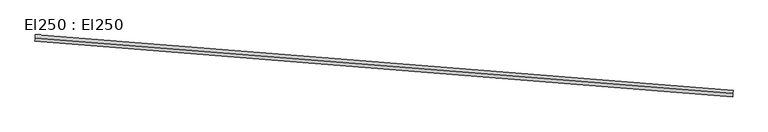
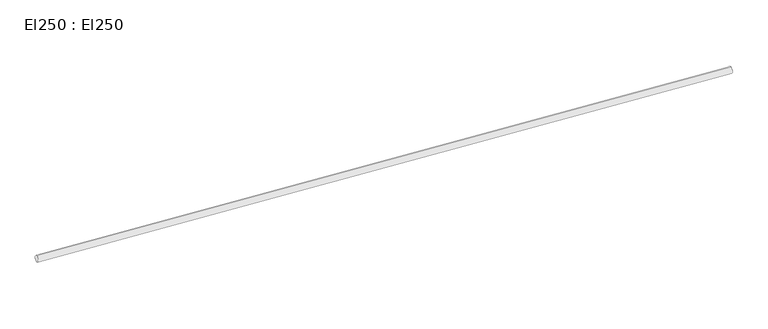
"""IFC4 building model written with IfcOpenShell, lengths in millimetres: cable carrier segment geometry, El250 : El250."""

from ifc_helpers import new_model, si_unit, point, frame, frame_2d, origin, place, context, project, spatial, circle_curve, trimmed, segment, composite_curve, outline, extrude, source, transform, mapped, element, save


def el250_el250_3d41ef78(model_context):
    return source(origin(), model_context, "Body", "SweptSolid", [
        extrude(outline(composite_curve([segment(trimmed(circle_curve(frame_2d((0.0, -9.5)), 9.5), [point((0.0, -19.0))], [point((0.0, 0.0))], False, "CARTESIAN"), True, "CONTINUOUS"), segment(trimmed(circle_curve(frame_2d((0.0, -9.5)), 9.5), [point((0.0, 0.0))], [point((0.0, -19.0))], False, "CARTESIAN"), True, "CONTINUOUS")], self_intersect=False)), frame((13421.0340061, 25319.0499718, 2959.5), z_axis=(-0.9968187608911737, 0.07970168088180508, 0.0), x_axis=(-0.07970168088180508, -0.9968187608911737, 0.0)), (0.0, 0.0, 1.0), 2051.4),
    ])


if __name__ == "__main__":
    model = new_model("IFC4")
    model_context = context("Model", 3, world=origin())
    ifc_project = project(units=[si_unit("LENGTHUNIT", "METRE", prefix="MILLI")], contexts=[model_context])
    site = spatial("IfcSite", under=ifc_project)
    building = spatial("IfcBuilding", under=site)
    placement = place(None, origin())
    el250_el250_shape = el250_el250_3d41ef78(model_context)
    element("IfcCableCarrierSegment", 1, ObjectType="El250 : El250", at=placement, inside=building, context=model_context, shape_type="MappedRepresentation", body=[
        mapped(el250_el250_shape, transform((0.0, 0.0, 0.0), x_axis=(1.0, 0.0, 0.0), y_axis=(0.0, 1.0, 0.0), z_axis=(0.0, 0.0, 1.0))),
    ])
    save(model, "model.ifc")
